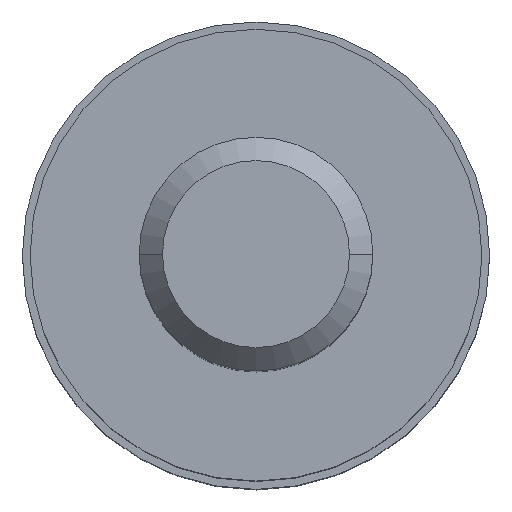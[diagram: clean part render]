
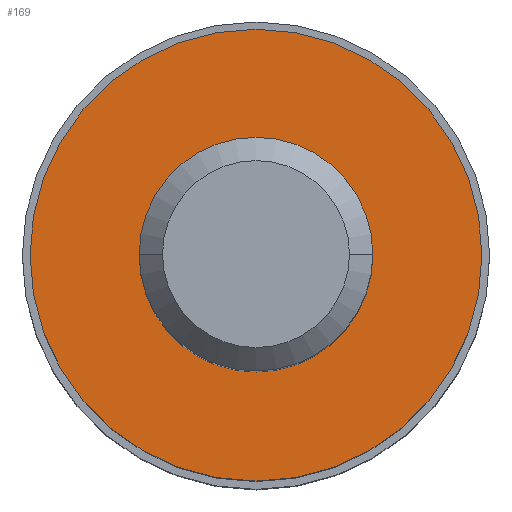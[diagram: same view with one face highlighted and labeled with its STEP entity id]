
A CAD part, top view. The second image highlights one B-rep face of the part: STEP entity #169.
In plain terms, the highlighted planar face has unit normal (0, 0, 1).
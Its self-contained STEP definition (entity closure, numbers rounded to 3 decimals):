
#4 = EDGE_CURVE ( 'NONE', #352, #416, #209, .T. ) ;
#5 = CARTESIAN_POINT ( 'NONE',  ( -5.8, 0., -15.5 ) ) ;
#27 = EDGE_LOOP ( 'NONE', ( #109, #460 ) ) ;
#42 = DIRECTION ( 'NONE',  ( 0., 0., -1. ) ) ;
#67 = EDGE_LOOP ( 'NONE', ( #126, #256 ) ) ;
#75 = AXIS2_PLACEMENT_3D ( 'NONE', #248, #258, #146 ) ;
#77 = CARTESIAN_POINT ( 'NONE',  ( 0., 0., -15.5 ) ) ;
#109 = ORIENTED_EDGE ( 'NONE', *, *, #369, .T. ) ;
#117 = CIRCLE ( 'NONE', #397, 3. ) ;
#126 = ORIENTED_EDGE ( 'NONE', *, *, #4, .F. ) ;
#146 = DIRECTION ( 'NONE',  ( -1., 0., 0. ) ) ;
#149 = CARTESIAN_POINT ( 'NONE',  ( 0., 5.8, -15.5 ) ) ;
#169 = ADVANCED_FACE ( 'NONE', ( #211, #262 ), #328, .T. ) ;
#170 = CARTESIAN_POINT ( 'NONE',  ( 5.8, 0., -15.5 ) ) ;
#195 = CARTESIAN_POINT ( 'NONE',  ( -3., 0., -15.5 ) ) ;
#201 = CARTESIAN_POINT ( 'NONE',  ( 0., 0., -15.5 ) ) ;
#209 = CIRCLE ( 'NONE', #374, 5.8 ) ;
#211 = FACE_BOUND ( 'NONE', #27, .T. ) ;
#222 = VERTEX_POINT ( 'NONE', #195 ) ;
#234 = DIRECTION ( 'NONE',  ( 0., 0., -1. ) ) ;
#248 = CARTESIAN_POINT ( 'NONE',  ( 0., 0., -15.5 ) ) ;
#256 = ORIENTED_EDGE ( 'NONE', *, *, #298, .F. ) ;
#258 = DIRECTION ( 'NONE',  ( 0., 0., -1. ) ) ;
#261 = AXIS2_PLACEMENT_3D ( 'NONE', #149, #459, #448 ) ;
#262 = FACE_OUTER_BOUND ( 'NONE', #67, .T. ) ;
#298 = EDGE_CURVE ( 'NONE', #416, #352, #311, .T. ) ;
#311 = CIRCLE ( 'NONE', #440, 5.8 ) ;
#328 = PLANE ( 'NONE',  #261 ) ;
#347 = DIRECTION ( 'NONE',  ( -1., 0., 0. ) ) ;
#352 = VERTEX_POINT ( 'NONE', #5 ) ;
#365 = CIRCLE ( 'NONE', #75, 3. ) ;
#369 = EDGE_CURVE ( 'NONE', #222, #471, #117, .T. ) ;
#374 = AXIS2_PLACEMENT_3D ( 'NONE', #393, #42, #395 ) ;
#393 = CARTESIAN_POINT ( 'NONE',  ( 0., 0., -15.5 ) ) ;
#395 = DIRECTION ( 'NONE',  ( -1., 0., 0. ) ) ;
#397 = AXIS2_PLACEMENT_3D ( 'NONE', #201, #441, #431 ) ;
#399 = CARTESIAN_POINT ( 'NONE',  ( 3., 0., -15.5 ) ) ;
#416 = VERTEX_POINT ( 'NONE', #170 ) ;
#431 = DIRECTION ( 'NONE',  ( -1., 0., 0. ) ) ;
#440 = AXIS2_PLACEMENT_3D ( 'NONE', #77, #234, #347 ) ;
#441 = DIRECTION ( 'NONE',  ( 0., 0., -1. ) ) ;
#448 = DIRECTION ( 'NONE',  ( 1., 0., 0. ) ) ;
#459 = DIRECTION ( 'NONE',  ( 0., 0., 1. ) ) ;
#460 = ORIENTED_EDGE ( 'NONE', *, *, #487, .T. ) ;
#471 = VERTEX_POINT ( 'NONE', #399 ) ;
#487 = EDGE_CURVE ( 'NONE', #471, #222, #365, .T. ) ;
